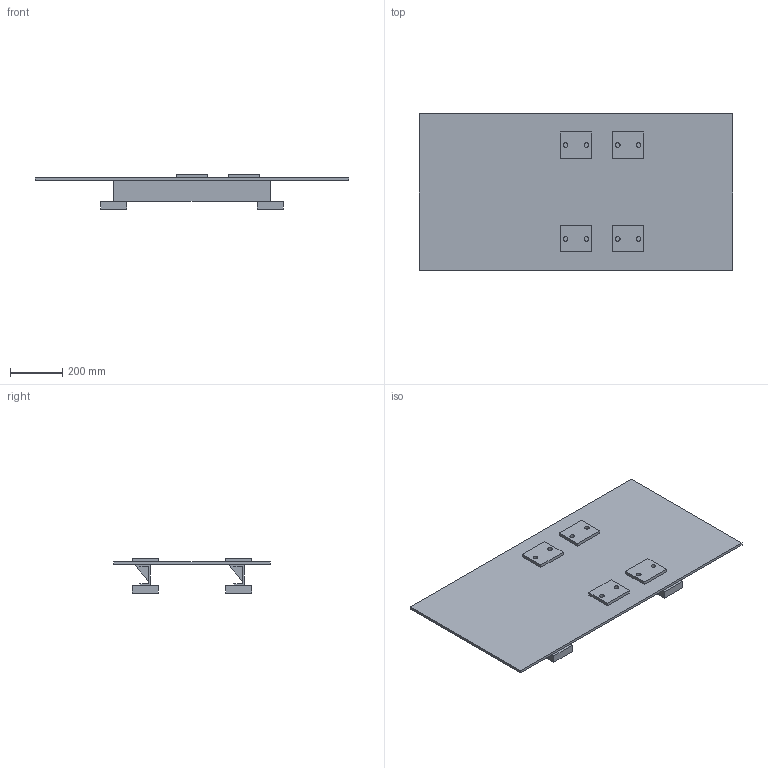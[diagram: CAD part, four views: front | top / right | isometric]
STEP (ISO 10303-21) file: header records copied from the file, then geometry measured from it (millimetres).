
FILE_DESCRIPTION(('Open CASCADE Model'),'2;1');
FILE_NAME('Open CASCADE Shape Model','2026-09-16T08:15:12',('Author'),( 'Open CASCADE'),'Open CASCADE STEP processor 7.8','Open CASCADE 7.8' ,'Unknown');
FILE_SCHEMA(('AUTOMOTIVE_DESIGN { 1 0 10303 214 1 1 1 1 }'));
Length unit declared in the file: millimetre
Products named in the file (20): Open CASCADE STEP translator 7.8 1; Open CASCADE STEP translator 7.8 1.1; Open CASCADE STEP translator 7.8 1.2; Open CASCADE STEP translator 7.8 1.3; Open CASCADE STEP translator 7.8 1.4; Open CASCADE STEP translator 7.8 1.5; Open CASCADE STEP translator 7.8 1.6; Open CASCADE STEP translator 7.8 1.7; Open CASCADE STEP translator 7.8 1.8; Open CASCADE STEP translator 7.8 1.9; Open CASCADE STEP translator 7.8 1.10; Open CASCADE STEP translator 7.8 1.11; Open CASCADE STEP translator 7.8 1.12; Open CASCADE STEP translator 7.8 1.13; Open CASCADE STEP translator 7.8 1.14; Open CASCADE STEP translator 7.8 1.15; Open CASCADE STEP translator 7.8 1.16; Open CASCADE STEP translator 7.8 1.17; Open CASCADE STEP translator 7.8 1.18; Open CASCADE STEP translator 7.8 1.19
Assembly tree (19 placements, depth 2):
  Open CASCADE STEP translator 7.8 1
    Open CASCADE STEP translator 7.8 1.1
    Open CASCADE STEP translator 7.8 1.2
    Open CASCADE STEP translator 7.8 1.3
    Open CASCADE STEP translator 7.8 1.4
    Open CASCADE STEP translator 7.8 1.5
    Open CASCADE STEP translator 7.8 1.6
    Open CASCADE STEP translator 7.8 1.7
    Open CASCADE STEP translator 7.8 1.8
    Open CASCADE STEP translator 7.8 1.9
    Open CASCADE STEP translator 7.8 1.10
    Open CASCADE STEP translator 7.8 1.11
    Open CASCADE STEP translator 7.8 1.12
    Open CASCADE STEP translator 7.8 1.13
    Open CASCADE STEP translator 7.8 1.14
    Open CASCADE STEP translator 7.8 1.15
    Open CASCADE STEP translator 7.8 1.16
    Open CASCADE STEP translator 7.8 1.17
    Open CASCADE STEP translator 7.8 1.18
    Open CASCADE STEP translator 7.8 1.19
Bounding box: 1200 x 600 x 132 mm (x, y, z)
Volume: 10072821.5 mm3; surface area: 2131264.6 mm2
Topology: 19 solids, 19 shells, 146 faces, 324 edges, 216 vertices
Faces by surface type: plane 130, cylinder 16
Full cylindrical faces by diameter (mm): 18 x16
Entity records: 8588 total; most frequent: CARTESIAN_POINT 1626, DIRECTION 1224, LINE 828, VECTOR 828, ORIENTED_EDGE 648, PCURVE 648, DEFINITIONAL_REPRESENTATION 648, EDGE_CURVE 324
